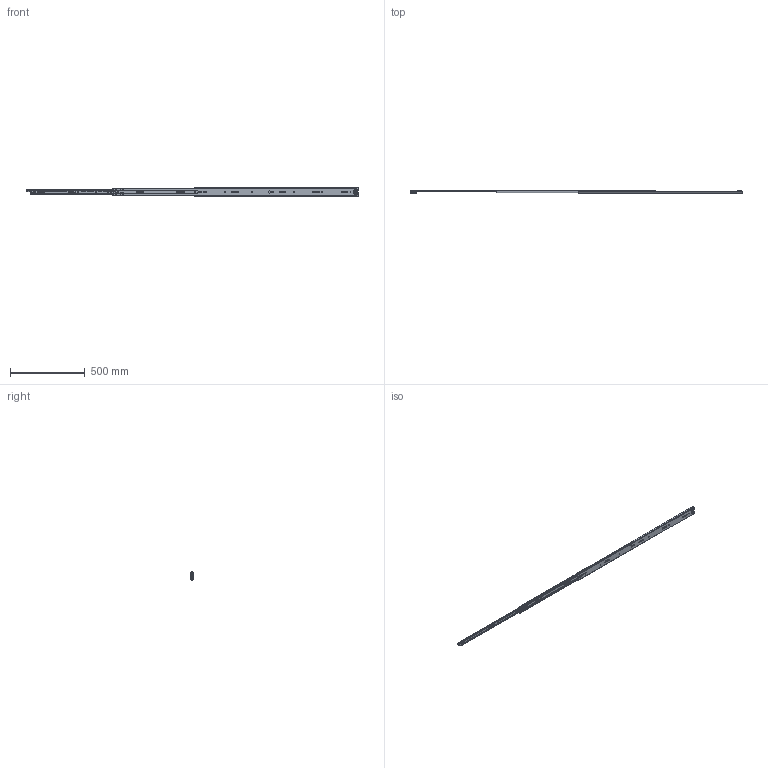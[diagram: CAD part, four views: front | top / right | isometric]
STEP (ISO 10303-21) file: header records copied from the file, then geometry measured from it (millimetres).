
FILE_DESCRIPTION((''),'2;1');
FILE_NAME('KP-57-01ZUZHUANGTU-44YOU_ASM','2023-04-04T',('jishu015'),(''),'PRO/ENGINEER BY PARAMETRIC TECHNOLOGY CORPORATION, 2010280','PRO/ENGINEER BY PARAMETRIC TECHNOLOGY CORPORATION, 2010280','');
FILE_SCHEMA(('CONFIG_CONTROL_DESIGN'));
Products named in the file (21): KP-57-01WEIKE-18______; 1057WEIJIAO______; WAIKE_____ASM; KP-57-01ZHONGGUI-18______; ZHONGGUIPEIJIAN-11____; ZHONGGUISUOKOU-11____; KP-57-01ZHONGGUI-18_______ASM; 1057XIAOZHUJIA______; 1057-5-6GANZHU______; 1057XIAOZHUJIA-14GE_______ASM; KP-57-01NEIGUI-18______; PJ-57-08____; DIAOPIAN-11____; 50XINSUOKOU-1____; 1053-3SBANJI122__; JIAO11__; KP-57-01NEIGUI-18_______ASM; 1053ZHUTIAO-175__________; 53-5-6GANZHU__________; 1053ZHUTIAO-175MM_____ASM; KP-57-01ZUZHUANGTU-44YOU_ASM
Assembly tree (119 placements, depth 3):
  KP-57-01ZUZHUANGTU-44YOU_ASM
    WAIKE_____ASM
      KP-57-01WEIKE-18______
      1057WEIJIAO______
    KP-57-01ZHONGGUI-18_______ASM
      KP-57-01ZHONGGUI-18______
      ZHONGGUIPEIJIAN-11____
      ZHONGGUISUOKOU-11____
    1057XIAOZHUJIA-14GE_______ASM
      1057XIAOZHUJIA______
      1057-5-6GANZHU______  x80
    KP-57-01NEIGUI-18_______ASM
      KP-57-01NEIGUI-18______
      PJ-57-08____
      DIAOPIAN-11____
      50XINSUOKOU-1____
      1053-3SBANJI122__
      JIAO11__
    1053ZHUTIAO-175MM_____ASM  x2
      1053ZHUTIAO-175__________
      53-5-6GANZHU__________
Bounding box: 2226.94 x 19 x 57.7 mm (x, y, z)
Volume: 484622.9 mm3; surface area: 529268 mm2
Topology: 135 solids, 135 shells, 3154 faces, 9162 edges, 5695 vertices
Faces by surface type: cylinder 1385, plane 1247, sphere 251, bspline 143, cone 86, extrusion 23, torus 19
Entity records: 100640 total; most frequent: CARTESIAN_POINT 24640, ORIENTED_EDGE 16108, DIRECTION 15666, EDGE_CURVE 8054, AXIS2_PLACEMENT_3D 5406, VERTEX_POINT 5203, VECTOR 4854, LINE 4831
